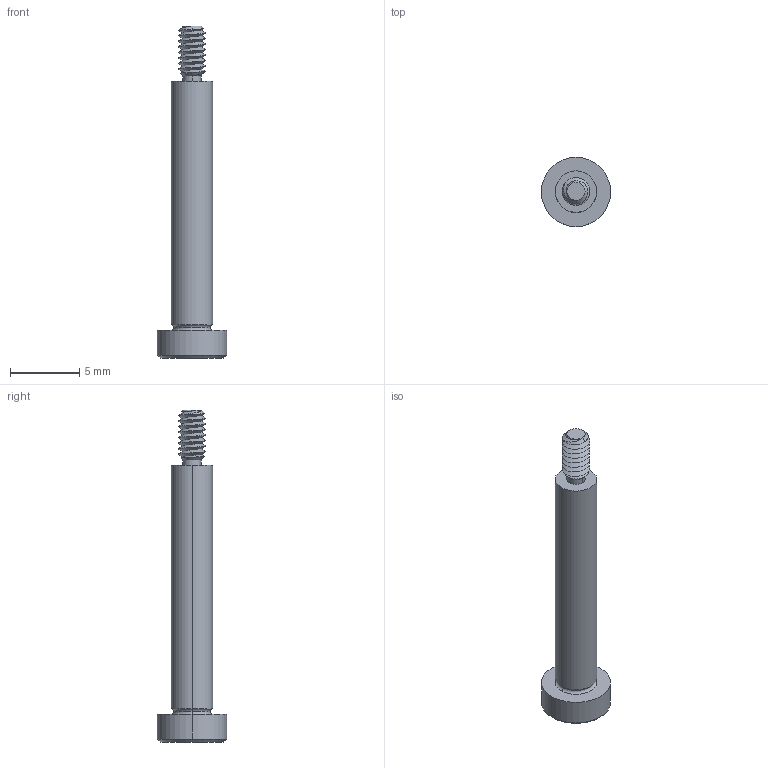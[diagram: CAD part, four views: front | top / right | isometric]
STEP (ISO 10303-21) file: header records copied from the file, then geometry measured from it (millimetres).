
FILE_DESCRIPTION (( 'STEP AP203' ), '1' );
FILE_NAME ('P0130.030-018-B2.step', '2021-11-09T20:58:02', ( '' ), ( '' ), 'SwSTEP 2.0', 'SolidWorks 2019', '' );
FILE_SCHEMA (( 'CONFIG_CONTROL_DESIGN' ));
Length unit declared in the file: millimetre
Products named in the file (1): P0130.030-018-B2
Bounding box: 5 x 5 x 24 mm (x, y, z)
Volume: 170.4 mm3; surface area: 285.8 mm2
Topology: 1 solids, 1 shells, 58 faces, 136 edges, 81 vertices
Faces by surface type: cylinder 22, plane 16, cone 14, torus 4, bspline 2
Entity records: 2452 total; most frequent: CARTESIAN_POINT 1166, ORIENTED_EDGE 268, DIRECTION 241, EDGE_CURVE 134, AXIS2_PLACEMENT_3D 97, VERTEX_POINT 81, EDGE_LOOP 61, FACE_OUTER_BOUND 58
